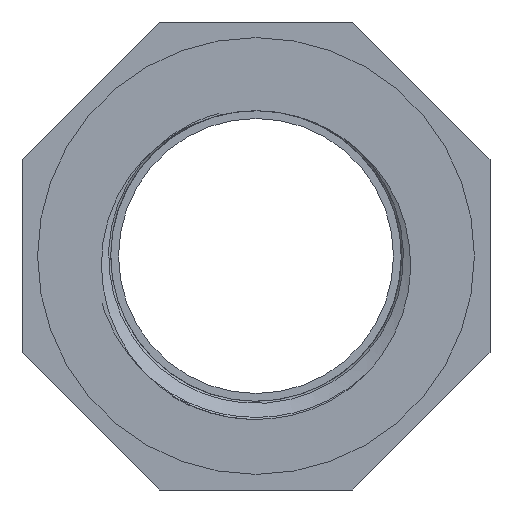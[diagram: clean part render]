
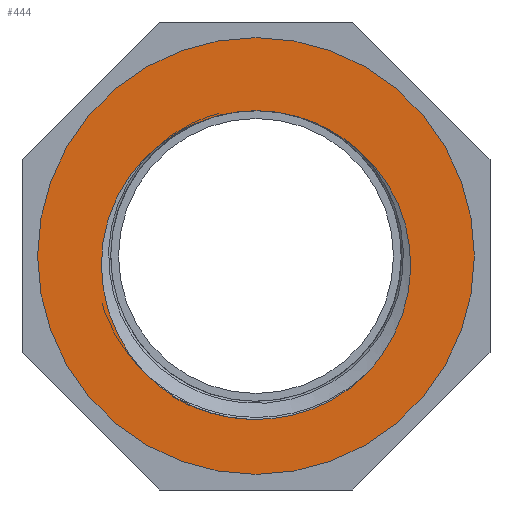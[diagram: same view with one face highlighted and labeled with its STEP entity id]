
A CAD part, front view. The second image highlights one B-rep face of the part: STEP entity #444.
In plain terms, the highlighted planar face has unit normal (0, -1, 0).
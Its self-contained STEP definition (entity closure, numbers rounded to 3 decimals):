
#82=FACE_BOUND('',#149,.T.);
#90=CIRCLE('',#469,14.);
#115=FACE_OUTER_BOUND('',#148,.T.);
#148=EDGE_LOOP('',(#392));
#149=EDGE_LOOP('',(#393,#394,#395,#396,#397));
#165=B_SPLINE_CURVE_WITH_KNOTS('',3,(#1220,#1221,#1222,#1223,#1224,#1225,
#1226,#1227,#1228,#1229,#1230,#1231,#1232),.UNSPECIFIED.,.F.,.F.,(4,3,3,
3,4),(0.,0.478,0.969,1.473,1.603),
 .UNSPECIFIED.);
#168=B_SPLINE_CURVE_WITH_KNOTS('',3,(#2116,#2117,#2118,#2119,#2120,#2121,
#2122,#2123,#2124,#2125,#2126,#2127),.UNSPECIFIED.,.F.,.F.,(4,2,2,2,2,4),
(0.,0.26,0.498,0.73,0.889,
1.024),.UNSPECIFIED.);
#180=B_SPLINE_CURVE_WITH_KNOTS('',3,(#6130,#6131,#6132,#6133,#6134,#6135,
#6136,#6137,#6138,#6139,#6140,#6141,#6142),.UNSPECIFIED.,.F.,.F.,(4,3,3,
3,4),(0.,0.509,1.004,1.486,1.606),
 .UNSPECIFIED.);
#182=B_SPLINE_CURVE_WITH_KNOTS('',3,(#6797,#6798,#6799,#6800,#6801,#6802,
#6803,#6804),.UNSPECIFIED.,.F.,.F.,(4,2,2,4),(0.,0.21,0.323,
0.444),.UNSPECIFIED.);
#183=B_SPLINE_CURVE_WITH_KNOTS('',3,(#7350,#7351,#7352,#7353,#7354,#7355),
 .UNSPECIFIED.,.F.,.F.,(4,2,4),(0.,0.364,0.819),
 .UNSPECIFIED.);
#196=VERTEX_POINT('',#1110);
#197=VERTEX_POINT('',#1219);
#198=VERTEX_POINT('',#2007);
#204=VERTEX_POINT('',#6021);
#205=VERTEX_POINT('',#6688);
#225=VERTEX_POINT('',#7414);
#239=EDGE_CURVE('',#197,#196,#165,.T.);
#242=EDGE_CURVE('',#196,#198,#168,.T.);
#254=EDGE_CURVE('',#198,#204,#180,.T.);
#256=EDGE_CURVE('',#204,#205,#182,.T.);
#257=EDGE_CURVE('',#205,#197,#183,.T.);
#285=EDGE_CURVE('',#225,#225,#90,.T.);
#392=ORIENTED_EDGE('',*,*,#285,.T.);
#393=ORIENTED_EDGE('',*,*,#257,.T.);
#394=ORIENTED_EDGE('',*,*,#239,.T.);
#395=ORIENTED_EDGE('',*,*,#242,.T.);
#396=ORIENTED_EDGE('',*,*,#254,.T.);
#397=ORIENTED_EDGE('',*,*,#256,.T.);
#418=PLANE('',#468);
#444=ADVANCED_FACE('',(#115,#82),#418,.F.);
#468=AXIS2_PLACEMENT_3D('',#7413,#536,#537);
#469=AXIS2_PLACEMENT_3D('',#7415,#538,#539);
#536=DIRECTION('center_axis',(0.,1.,0.));
#537=DIRECTION('ref_axis',(0.,0.,1.));
#538=DIRECTION('center_axis',(0.,-1.,0.));
#539=DIRECTION('ref_axis',(1.,0.,0.));
#1110=CARTESIAN_POINT('',(7.153,-18.5,-7.473));
#1219=CARTESIAN_POINT('',(6.534,-18.5,6.826));
#1220=CARTESIAN_POINT('Ctrl Pts',(6.534,-18.5,6.826));
#1221=CARTESIAN_POINT('Ctrl Pts',(7.747,-18.5,5.795));
#1222=CARTESIAN_POINT('Ctrl Pts',(8.687,-18.5,4.458));
#1223=CARTESIAN_POINT('Ctrl Pts',(9.258,-18.5,2.978));
#1224=CARTESIAN_POINT('Ctrl Pts',(9.845,-18.5,1.456));
#1225=CARTESIAN_POINT('Ctrl Pts',(10.04,-18.5,-0.22));
#1226=CARTESIAN_POINT('Ctrl Pts',(9.83,-18.5,-1.837));
#1227=CARTESIAN_POINT('Ctrl Pts',(9.614,-18.5,-3.496));
#1228=CARTESIAN_POINT('Ctrl Pts',(8.969,-18.5,-5.108));
#1229=CARTESIAN_POINT('Ctrl Pts',(7.985,-18.5,-6.467));
#1230=CARTESIAN_POINT('Ctrl Pts',(7.73,-18.5,-6.82));
#1231=CARTESIAN_POINT('Ctrl Pts',(7.452,-18.5,-7.155));
#1232=CARTESIAN_POINT('Ctrl Pts',(7.153,-18.5,-7.473));
#2007=CARTESIAN_POINT('',(-7.153,-18.5,-7.473));
#2116=CARTESIAN_POINT('Ctrl Pts',(7.153,-18.5,-7.473));
#2117=CARTESIAN_POINT('Ctrl Pts',(6.561,-18.5,-8.104));
#2118=CARTESIAN_POINT('Ctrl Pts',(5.62,-18.5,-8.897));
#2119=CARTESIAN_POINT('Ctrl Pts',(3.107,-18.5,-10.083));
#2120=CARTESIAN_POINT('Ctrl Pts',(1.799,-18.5,-10.406));
#2121=CARTESIAN_POINT('Ctrl Pts',(-0.824,-18.5,-10.527));
#2122=CARTESIAN_POINT('Ctrl Pts',(-2.117,-18.5,-10.34));
#2123=CARTESIAN_POINT('Ctrl Pts',(-4.177,-18.5,-9.62));
#2124=CARTESIAN_POINT('Ctrl Pts',(-4.975,-18.5,-9.217));
#2125=CARTESIAN_POINT('Ctrl Pts',(-6.323,-18.5,-8.285));
#2126=CARTESIAN_POINT('Ctrl Pts',(-6.801,-18.5,-7.848));
#2127=CARTESIAN_POINT('Ctrl Pts',(-7.153,-18.5,-7.473));
#6021=CARTESIAN_POINT('',(-6.534,-18.5,6.826));
#6130=CARTESIAN_POINT('Ctrl Pts',(-7.153,-18.5,-7.473));
#6131=CARTESIAN_POINT('Ctrl Pts',(-8.314,-18.5,-6.237));
#6132=CARTESIAN_POINT('Ctrl Pts',(-9.159,-18.5,-4.716));
#6133=CARTESIAN_POINT('Ctrl Pts',(-9.587,-18.5,-3.084));
#6134=CARTESIAN_POINT('Ctrl Pts',(-10.003,-18.5,-1.494));
#6135=CARTESIAN_POINT('Ctrl Pts',(-10.021,-18.5,0.206));
#6136=CARTESIAN_POINT('Ctrl Pts',(-9.629,-18.5,1.8));
#6137=CARTESIAN_POINT('Ctrl Pts',(-9.247,-18.5,3.348));
#6138=CARTESIAN_POINT('Ctrl Pts',(-8.475,-18.5,4.81));
#6139=CARTESIAN_POINT('Ctrl Pts',(-7.398,-18.5,5.992));
#6140=CARTESIAN_POINT('Ctrl Pts',(-7.128,-18.5,6.288));
#6141=CARTESIAN_POINT('Ctrl Pts',(-6.84,-18.5,6.566));
#6142=CARTESIAN_POINT('Ctrl Pts',(-6.534,-18.5,6.826));
#6688=CARTESIAN_POINT('',(0.,-18.5,9.315));
#6797=CARTESIAN_POINT('Ctrl Pts',(-6.534,-18.5,6.826));
#6798=CARTESIAN_POINT('Ctrl Pts',(-6.,-18.5,7.28));
#6799=CARTESIAN_POINT('Ctrl Pts',(-5.176,-18.5,7.916));
#6800=CARTESIAN_POINT('Ctrl Pts',(-3.43,-18.5,8.712));
#6801=CARTESIAN_POINT('Ctrl Pts',(-2.795,-18.5,8.927));
#6802=CARTESIAN_POINT('Ctrl Pts',(-1.439,-18.5,9.235));
#6803=CARTESIAN_POINT('Ctrl Pts',(-0.721,-18.5,9.316));
#6804=CARTESIAN_POINT('Ctrl Pts',(0.,-18.5,9.316));
#7350=CARTESIAN_POINT('Ctrl Pts',(0.,-18.5,9.316));
#7351=CARTESIAN_POINT('Ctrl Pts',(1.214,-18.5,9.316));
#7352=CARTESIAN_POINT('Ctrl Pts',(2.414,-18.5,9.087));
#7353=CARTESIAN_POINT('Ctrl Pts',(4.959,-18.5,8.089));
#7354=CARTESIAN_POINT('Ctrl Pts',(5.947,-18.5,7.325));
#7355=CARTESIAN_POINT('Ctrl Pts',(6.534,-18.5,6.826));
#7413=CARTESIAN_POINT('Origin',(0.,-18.5,0.));
#7414=CARTESIAN_POINT('',(-14.,-18.5,0.));
#7415=CARTESIAN_POINT('Origin',(0.,-18.5,0.));
